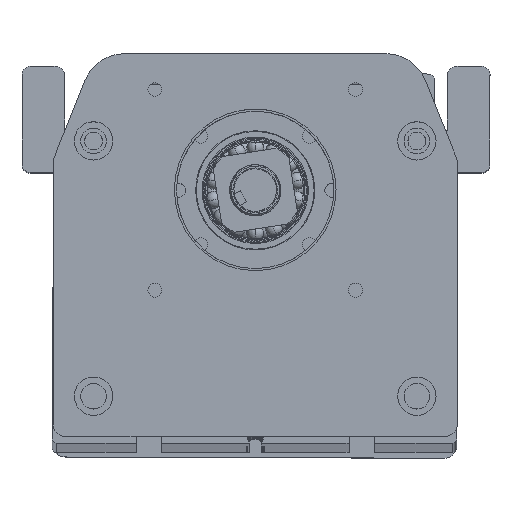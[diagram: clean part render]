
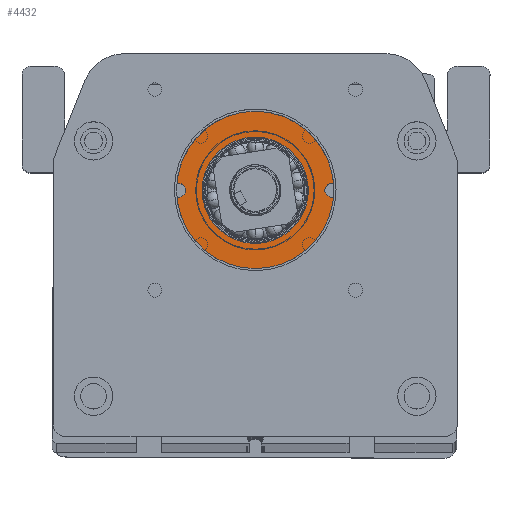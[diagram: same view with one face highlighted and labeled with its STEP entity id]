
A CAD part, top view. The second image highlights one B-rep face of the part: STEP entity #4432.
In plain terms, the highlighted planar face has unit normal (0, 0, 1) as drawn and (0, 0, -1) by its records, which use the part's own axes.
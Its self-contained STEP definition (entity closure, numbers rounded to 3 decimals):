
#336 = DIRECTION ( 'NONE',  ( 0., 0., -1. ) ) ;
#569 = AXIS2_PLACEMENT_3D ( 'NONE', #27631, #8824, #30754 ) ;
#581 = CIRCLE ( 'NONE', #569, 18.5 ) ;
#743 = EDGE_CURVE ( 'NONE', #29967, #4317, #35140, .T. ) ;
#1340 = VERTEX_POINT ( 'NONE', #35362 ) ;
#1519 = CARTESIAN_POINT ( 'NONE',  ( 0., 148.669, 51. ) ) ;
#1927 = ORIENTED_EDGE ( 'NONE', *, *, #24655, .T. ) ;
#1939 = CARTESIAN_POINT ( 'NONE',  ( 38.737, 121.669, 51. ) ) ;
#1970 = VECTOR ( 'NONE', #27795, 1000. ) ;
#1980 = DIRECTION ( 'NONE',  ( 0., 0., -1. ) ) ;
#2407 = VERTEX_POINT ( 'NONE', #5179 ) ;
#2463 = CIRCLE ( 'NONE', #4948, 1.65 ) ;
#2468 = EDGE_LOOP ( 'NONE', ( #10318, #28288 ) ) ;
#2489 = DIRECTION ( 'NONE',  ( 0., 0., -1. ) ) ;
#2954 = LINE ( 'NONE', #3081, #1970 ) ;
#3081 = CARTESIAN_POINT ( 'NONE',  ( 26.737, 172.669, 51. ) ) ;
#4317 = VERTEX_POINT ( 'NONE', #36392 ) ;
#4432 = ADVANCED_FACE ( 'NONE', ( #32859, #25494 ), #5527, .T. ) ;
#4682 = DIRECTION ( 'NONE',  ( 1., 0., 0. ) ) ;
#4948 = AXIS2_PLACEMENT_3D ( 'NONE', #19168, #336, #22291 ) ;
#5111 = DIRECTION ( 'NONE',  ( -1., 0., 0. ) ) ;
#5179 = CARTESIAN_POINT ( 'NONE',  ( 26.737, 148.669, 51. ) ) ;
#5527 = PLANE ( 'NONE',  #19467 ) ;
#5689 = ORIENTED_EDGE ( 'NONE', *, *, #38170, .F. ) ;
#6676 = VERTEX_POINT ( 'NONE', #7723 ) ;
#7312 = CIRCLE ( 'NONE', #25083, 12.5 ) ;
#7723 = CARTESIAN_POINT ( 'NONE',  ( 51.237, 121.669, 51. ) ) ;
#7904 = EDGE_CURVE ( 'NONE', #34704, #20491, #30582, .T. ) ;
#8050 = CARTESIAN_POINT ( 'NONE',  ( 57.169, 123.262, 51. ) ) ;
#8371 = DIRECTION ( 'NONE',  ( 0., 0., -1. ) ) ;
#8466 = VERTEX_POINT ( 'NONE', #35613 ) ;
#8512 = CARTESIAN_POINT ( 'NONE',  ( 26.737, 135.749, 51. ) ) ;
#8824 = DIRECTION ( 'NONE',  ( 0., 0., -1. ) ) ;
#9679 = ORIENTED_EDGE ( 'NONE', *, *, #743, .F. ) ;
#9898 = CARTESIAN_POINT ( 'NONE',  ( 38.737, 121.669, 51. ) ) ;
#9950 = CIRCLE ( 'NONE', #12478, 18.5 ) ;
#10191 = VERTEX_POINT ( 'NONE', #19194 ) ;
#10318 = ORIENTED_EDGE ( 'NONE', *, *, #11865, .F. ) ;
#10841 = EDGE_LOOP ( 'NONE', ( #36459, #33137, #23811, #1927, #33167, #5689, #25315, #18296, #32916, #9679 ) ) ;
#11170 = EDGE_CURVE ( 'NONE', #2407, #19939, #2954, .T. ) ;
#11865 = EDGE_CURVE ( 'NONE', #8466, #6676, #7312, .T. ) ;
#11913 = AXIS2_PLACEMENT_3D ( 'NONE', #13393, #1980, #36879 ) ;
#12478 = AXIS2_PLACEMENT_3D ( 'NONE', #32450, #13667, #35580 ) ;
#12662 = CARTESIAN_POINT ( 'NONE',  ( 50.737, 135.749, 51. ) ) ;
#12882 = CARTESIAN_POINT ( 'NONE',  ( 20.306, 123.262, 51. ) ) ;
#13039 = DIRECTION ( 'NONE',  ( -1., 0., 0. ) ) ;
#13393 = CARTESIAN_POINT ( 'NONE',  ( 20.737, 121.669, 51. ) ) ;
#13667 = DIRECTION ( 'NONE',  ( 0., 0., -1. ) ) ;
#14133 = AXIS2_PLACEMENT_3D ( 'NONE', #1939, #23868, #5111 ) ;
#15245 = CARTESIAN_POINT ( 'NONE',  ( 57.169, 120.076, 51. ) ) ;
#15980 = CIRCLE ( 'NONE', #14133, 12.5 ) ;
#16221 = CARTESIAN_POINT ( 'NONE',  ( 56.737, 121.669, 51. ) ) ;
#16261 = LINE ( 'NONE', #1519, #39373 ) ;
#16967 = CARTESIAN_POINT ( 'NONE',  ( 20.737, 121.669, 51. ) ) ;
#18296 = ORIENTED_EDGE ( 'NONE', *, *, #28970, .T. ) ;
#18349 = EDGE_CURVE ( 'NONE', #2407, #24541, #16261, .T. ) ;
#18870 = EDGE_CURVE ( 'NONE', #4317, #1340, #32908, .T. ) ;
#19168 = CARTESIAN_POINT ( 'NONE',  ( 56.737, 121.669, 51. ) ) ;
#19194 = CARTESIAN_POINT ( 'NONE',  ( 55.087, 121.669, 51. ) ) ;
#19360 = DIRECTION ( 'NONE',  ( -1., 0., 0. ) ) ;
#19467 = AXIS2_PLACEMENT_3D ( 'NONE', #33737, #2489, #24418 ) ;
#19939 = VERTEX_POINT ( 'NONE', #8512 ) ;
#20128 = DIRECTION ( 'NONE',  ( -1., 0., 0. ) ) ;
#20491 = VERTEX_POINT ( 'NONE', #8050 ) ;
#21004 = LINE ( 'NONE', #34438, #36710 ) ;
#21863 = AXIS2_PLACEMENT_3D ( 'NONE', #16221, #38163, #19360 ) ;
#22291 = DIRECTION ( 'NONE',  ( -1., 0., 0. ) ) ;
#23485 = EDGE_CURVE ( 'NONE', #6676, #8466, #15980, .T. ) ;
#23756 = CIRCLE ( 'NONE', #21863, 1.65 ) ;
#23811 = ORIENTED_EDGE ( 'NONE', *, *, #18349, .T. ) ;
#23868 = DIRECTION ( 'NONE',  ( 0., 0., -1. ) ) ;
#24418 = DIRECTION ( 'NONE',  ( -1., 0., 0. ) ) ;
#24541 = VERTEX_POINT ( 'NONE', #27636 ) ;
#24655 = EDGE_CURVE ( 'NONE', #24541, #34704, #21004, .T. ) ;
#25083 = AXIS2_PLACEMENT_3D ( 'NONE', #27163, #8371, #30306 ) ;
#25315 = ORIENTED_EDGE ( 'NONE', *, *, #33616, .F. ) ;
#25494 = FACE_BOUND ( 'NONE', #2468, .T. ) ;
#27163 = CARTESIAN_POINT ( 'NONE',  ( 38.737, 121.669, 51. ) ) ;
#27631 = CARTESIAN_POINT ( 'NONE',  ( 38.737, 121.669, 51. ) ) ;
#27636 = CARTESIAN_POINT ( 'NONE',  ( 50.737, 148.669, 51. ) ) ;
#27795 = DIRECTION ( 'NONE',  ( 0., -1., 0. ) ) ;
#28288 = ORIENTED_EDGE ( 'NONE', *, *, #23485, .F. ) ;
#28970 = EDGE_CURVE ( 'NONE', #29528, #1340, #581, .T. ) ;
#29528 = VERTEX_POINT ( 'NONE', #15245 ) ;
#29967 = VERTEX_POINT ( 'NONE', #12882 ) ;
#30306 = DIRECTION ( 'NONE',  ( -1., 0., 0. ) ) ;
#30582 = CIRCLE ( 'NONE', #38217, 18.5 ) ;
#30754 = DIRECTION ( 'NONE',  ( -1., 0., 0. ) ) ;
#31279 = DIRECTION ( 'NONE',  ( 0., -1., 0. ) ) ;
#31804 = DIRECTION ( 'NONE',  ( 0., 0., -1. ) ) ;
#32450 = CARTESIAN_POINT ( 'NONE',  ( 38.737, 121.669, 51. ) ) ;
#32859 = FACE_OUTER_BOUND ( 'NONE', #10841, .T. ) ;
#32908 = CIRCLE ( 'NONE', #34212, 1.65 ) ;
#32916 = ORIENTED_EDGE ( 'NONE', *, *, #18870, .F. ) ;
#33137 = ORIENTED_EDGE ( 'NONE', *, *, #11170, .F. ) ;
#33167 = ORIENTED_EDGE ( 'NONE', *, *, #7904, .T. ) ;
#33616 = EDGE_CURVE ( 'NONE', #29528, #10191, #2463, .T. ) ;
#33737 = CARTESIAN_POINT ( 'NONE',  ( 26.737, 172.669, 51. ) ) ;
#34212 = AXIS2_PLACEMENT_3D ( 'NONE', #16967, #38948, #20128 ) ;
#34438 = CARTESIAN_POINT ( 'NONE',  ( 50.737, 172.669, 51. ) ) ;
#34704 = VERTEX_POINT ( 'NONE', #12662 ) ;
#35140 = CIRCLE ( 'NONE', #11913, 1.65 ) ;
#35362 = CARTESIAN_POINT ( 'NONE',  ( 20.306, 120.076, 51. ) ) ;
#35580 = DIRECTION ( 'NONE',  ( -1., 0., 0. ) ) ;
#35613 = CARTESIAN_POINT ( 'NONE',  ( 26.237, 121.669, 51. ) ) ;
#36392 = CARTESIAN_POINT ( 'NONE',  ( 22.387, 121.669, 51. ) ) ;
#36459 = ORIENTED_EDGE ( 'NONE', *, *, #39366, .T. ) ;
#36710 = VECTOR ( 'NONE', #31279, 1000. ) ;
#36879 = DIRECTION ( 'NONE',  ( -1., 0., 0. ) ) ;
#38163 = DIRECTION ( 'NONE',  ( 0., 0., -1. ) ) ;
#38170 = EDGE_CURVE ( 'NONE', #10191, #20491, #23756, .T. ) ;
#38217 = AXIS2_PLACEMENT_3D ( 'NONE', #9898, #31804, #13039 ) ;
#38948 = DIRECTION ( 'NONE',  ( 0., 0., -1. ) ) ;
#39366 = EDGE_CURVE ( 'NONE', #29967, #19939, #9950, .T. ) ;
#39373 = VECTOR ( 'NONE', #4682, 1000. ) ;
